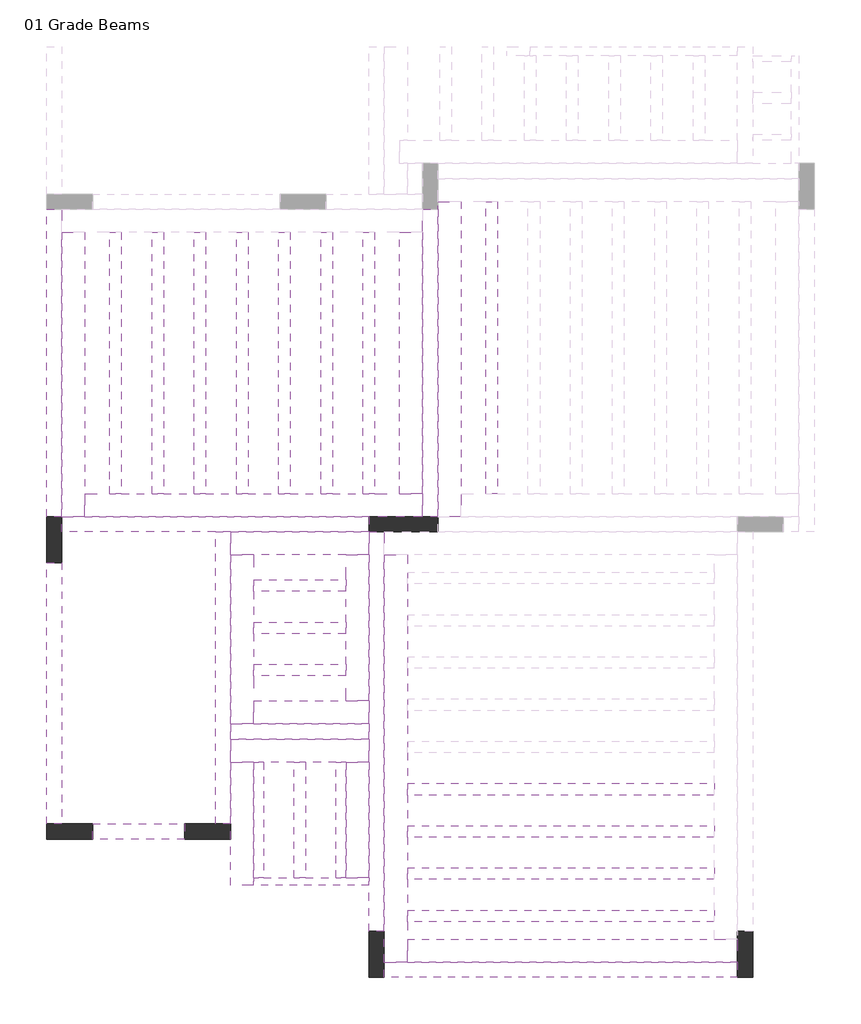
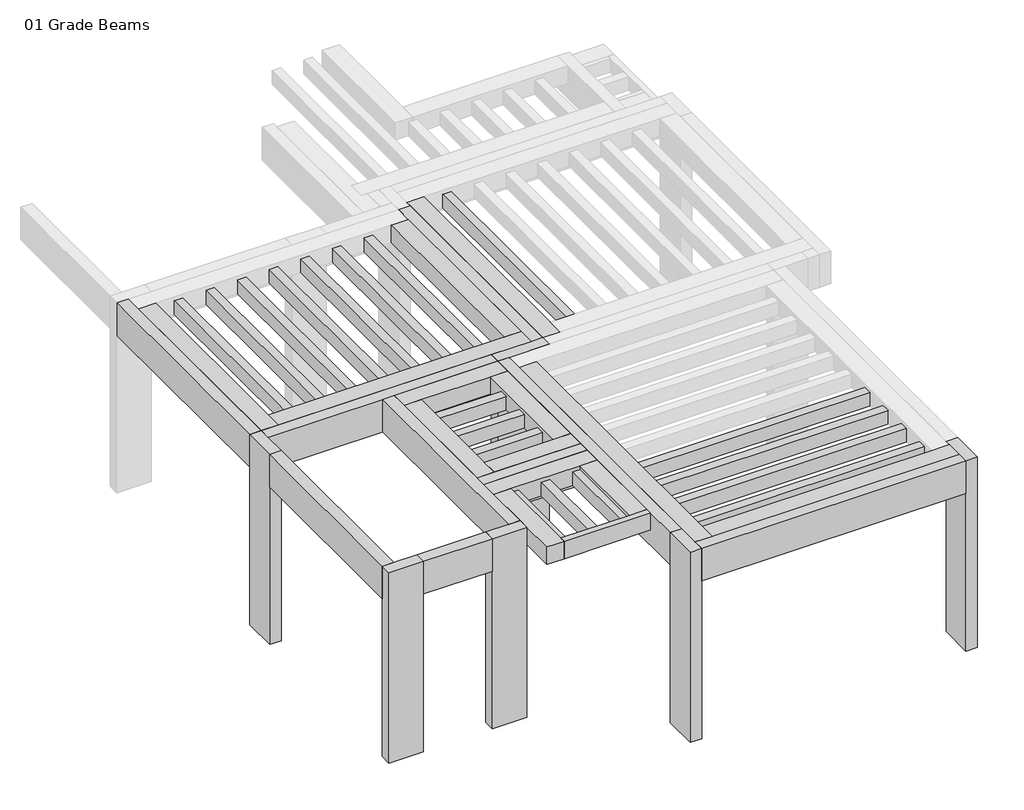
# One storey, part 1 of 3: 41 beams, 6 columns.
"""IFC4 building model written with IfcOpenShell, lengths in millimetres."""

from ifc_helpers import new_model, si_unit, frame, origin, place, context, project, spatial, polyline, outline, extrude, faceted_brep, element, save

model = new_model("IFC4")

# Units and contexts
model_context = context("Model", 3, world=origin())
ifc_project = project(units=[si_unit("LENGTHUNIT", "METRE", prefix="MILLI")], contexts=[model_context])

# Site, building, storey
site = spatial("IfcSite", under=ifc_project)
building = spatial("IfcBuilding", under=site)
storey = spatial("IfcBuildingStorey", under=building, Name="01 Grade Beams", Elevation=0.0)

# Beams
placement = place(None, origin())
element("IfcBeam", 1, ObjectType="M_Concrete-Rectangular Beam : DB1- 20 x 60 cm", at=placement, inside=storey, context=model_context, shape_type="Brep", body=[
    faceted_brep([(-5601.9262989, 1144.9958345, 3500.0), (-5801.9262989, 1144.9958345, 3500.0), (-5801.9262989, -2855.0041655, 3500.0), (-5601.9262989, -2855.0041655, 3500.0), (-5601.9262989, 844.9958345, 3500.0), (-5801.9262989, 1144.9958345, 2900.0), (-5801.9262989, -2855.0041655, 2900.0), (-5601.9262989, 1144.9958345, 2900.0), (-5601.9262989, -2855.0041655, 2900.0), (-5601.9262989, 1144.9958345, 3180.0), (-5601.9262989, -2855.0041655, 3180.0)], [[[0, 1, 2, 3, 4]], [[1, 5, 6, 2]], [[5, 7, 8, 6]], [[7, 9, 0, 4, 3, 10, 8]], [[1, 0, 9, 7, 5]], [[3, 2, 6, 8, 10]]]),
])
element("IfcBeam", 2, ObjectType="M_Concrete-Rectangular Beam : DB1- 20 x 60 cm", at=placement, inside=storey, context=model_context, shape_type="Brep", body=[
    faceted_brep([(-5601.9262989, -3455.0041655, 3500.0), (-5801.9262989, -3455.0041655, 3500.0), (-5801.9262989, -6855.0041655, 3500.0), (-5601.9262989, -6855.0041655, 3500.0), (-5801.9262989, -3455.0041655, 2900.0), (-5801.9262989, -6855.0041655, 2900.0), (-5601.9262989, -3455.0041655, 2900.0), (-5601.9262989, -6855.0041655, 2900.0), (-5601.9262989, -6855.0041655, 3350.0)], [[[0, 1, 2, 3]], [[1, 4, 5, 2]], [[4, 6, 7, 5]], [[6, 0, 3, 8, 7]], [[1, 0, 6, 4]], [[3, 2, 5, 7, 8]]]),
])
element("IfcBeam", 3, ObjectType="M_Concrete-Rectangular Beam : DB1- 20 x 60 cm", at=placement, inside=storey, context=model_context, shape_type="SweptSolid", body=[
    extrude(outline(polyline([(-5201.9262989, -7055.0041655), (-5201.9262989, -6855.0041655), (-4001.9262989, -6855.0041655), (-4001.9262989, -7055.0041655), (-5201.9262989, -7055.0041655)])), frame((0.0, 0.0, 2900.0), z_axis=(0.0, 0.0, 1.0), x_axis=(1.0, 0.0, 0.0)), (0.0, 0.0, 1.0), 600.0),
])
element("IfcBeam", 4, ObjectType="M_Concrete-Rectangular Beam : DB1- 20 x 60 cm", at=placement, inside=storey, context=model_context, shape_type="Brep", body=[
    faceted_brep([(-1401.9262989, -8655.0041655, 3500.0), (-1401.9262989, -8855.0041655, 3500.0), (3198.0737011, -8855.0041655, 3500.0), (3198.0737011, -8655.0041655, 3500.0), (-1101.9262989, -8655.0041655, 3500.0), (-1401.9262989, -8655.0041655, 2900.0), (-1401.9262989, -8655.0041655, 3180.0), (3198.0737011, -8655.0041655, 3180.0), (3198.0737011, -8655.0041655, 2900.0), (-1401.9262989, -8855.0041655, 2900.0), (3198.0737011, -8855.0041655, 2900.0)], [[[0, 1, 2, 3, 4]], [[5, 6, 0, 4, 3, 7, 8]], [[9, 5, 8, 10]], [[1, 9, 10, 2]], [[1, 0, 6, 5, 9]], [[3, 2, 10, 8, 7]]]),
])
element("IfcBeam", 5, ObjectType="M_Concrete-Rectangular Beam : DB1- 20 x 60 cm", at=placement, inside=storey, context=model_context, shape_type="Brep", body=[
    faceted_brep([(-901.9262989, -2855.0041655, 3500.0), (-701.9262989, -2855.0041655, 3500.0), (-701.9262989, 1144.9958345, 3500.0), (-901.9262989, 1144.9958345, 3500.0), (-901.9262989, 844.9958345, 3500.0), (-901.9262989, -2555.0041655, 3500.0), (-701.9262989, -2855.0041655, 2900.0), (-901.9262989, -2855.0041655, 2900.0), (-901.9262989, 1144.9958345, 2900.0), (-701.9262989, 1144.9958345, 2900.0), (-701.9262989, -2855.0041655, 3180.0), (-901.9262989, -2855.0041655, 3180.0), (-901.9262989, 1144.9958345, 3180.0)], [[[0, 1, 2, 3, 4, 5]], [[6, 7, 8, 9]], [[1, 10, 6, 9, 2]], [[1, 0, 11, 7, 6, 10]], [[2, 9, 8, 12, 3]], [[7, 11, 0, 5, 4, 3, 12, 8]]]),
])
element("IfcBeam", 6, ObjectType="M_Concrete-Rectangular Beam : DB1- 20 x 60 cm", at=placement, inside=storey, context=model_context, shape_type="Brep", body=[
    faceted_brep([(-3401.9262989, -5555.0041655, 3500.0), (-3401.9262989, -5755.0041655, 3500.0), (-1601.9262989, -5755.0041655, 3500.0), (-1601.9262989, -5555.0041655, 3500.0), (-3101.9262989, -5555.0041655, 3500.0), (-3401.9262989, -5555.0041655, 2900.0), (-3401.9262989, -5555.0041655, 3180.0), (-1601.9262989, -5555.0041655, 3180.0), (-1601.9262989, -5555.0041655, 2900.0), (-3401.9262989, -5755.0041655, 2900.0), (-1601.9262989, -5755.0041655, 2900.0), (-3401.9262989, -5755.0041655, 3180.0), (-1601.9262989, -5755.0041655, 3180.0)], [[[0, 1, 2, 3, 4]], [[5, 6, 0, 4, 3, 7, 8]], [[9, 5, 8, 10]], [[1, 11, 9, 10, 12, 2]], [[1, 0, 6, 5, 9, 11]], [[3, 2, 12, 10, 8, 7]]]),
])
element("IfcBeam", 7, ObjectType="M_Concrete-Rectangular Beam : DB2- 20 x 60 cm", at=placement, inside=storey, context=model_context, shape_type="Brep", body=[
    faceted_brep([(-5601.9262989, -2855.0041655, 3500.0), (-5601.9262989, -3055.0041655, 3500.0), (-3601.9262989, -3055.0041655, 3500.0), (-3401.9262989, -3055.0041655, 3500.0), (-1601.9262989, -3055.0041655, 3500.0), (-1601.9262989, -2855.0041655, 3500.0), (-5301.9262989, -2855.0041655, 3500.0), (-5601.9262989, -2855.0041655, 2900.0), (-5601.9262989, -2855.0041655, 3180.0), (-1601.9262989, -2855.0041655, 2900.0), (-5601.9262989, -3055.0041655, 2900.0), (-1601.9262989, -3055.0041655, 2900.0), (-3401.9262989, -3055.0041655, 2900.0), (-3601.9262989, -3055.0041655, 2900.0), (-5601.9262989, -3055.0041655, 3350.0), (-1601.9262989, -3055.0041655, 3180.0)], [[[0, 1, 2, 3, 4, 5, 6]], [[7, 8, 0, 6, 5, 9]], [[10, 7, 9, 11, 12, 13]], [[1, 14, 10, 13, 12, 11, 15, 4, 3, 2]], [[1, 0, 8, 7, 10, 14]], [[5, 4, 15, 11, 9]]]),
])
element("IfcBeam", 8, ObjectType="M_Concrete-Rectangular Beam : DB2- 20 x 60 cm", at=placement, inside=storey, context=model_context, shape_type="Brep", body=[
    faceted_brep([(-3401.9262989, -3055.0041655, 3500.0), (-3601.9262989, -3055.0041655, 3500.0), (-3601.9262989, -6855.0041655, 3500.0), (-3401.9262989, -6855.0041655, 3500.0), (-3401.9262989, -6055.0041655, 3500.0), (-3401.9262989, -5755.0041655, 3500.0), (-3401.9262989, -5555.0041655, 3500.0), (-3401.9262989, -3355.0041655, 3500.0), (-3401.9262989, -3055.0041655, 2900.0), (-3401.9262989, -3055.0041655, 3180.0), (-3401.9262989, -6855.0041655, 2900.0), (-3401.9262989, -5755.0041655, 2900.0), (-3401.9262989, -5555.0041655, 2900.0), (-3601.9262989, -3055.0041655, 2900.0), (-3601.9262989, -6855.0041655, 2900.0), (-3601.9262989, -3055.0041655, 3350.0), (-3601.9262989, -6855.0041655, 3350.0)], [[[0, 1, 2, 3, 4, 5, 6, 7]], [[8, 9, 0, 7, 6, 5, 4, 3, 10, 11, 12]], [[13, 8, 12, 11, 10, 14]], [[1, 15, 13, 14, 16, 2]], [[1, 0, 9, 8, 13, 15]], [[3, 2, 16, 14, 10]]]),
])
element("IfcBeam", 9, ObjectType="M_Concrete-Rectangular Beam : DB2- 20 x 60 cm", at=placement, inside=storey, context=model_context, shape_type="Brep", body=[
    faceted_brep([(-1401.9262989, -3055.0041655, 3500.0), (-1601.9262989, -3055.0041655, 3500.0), (-1601.9262989, -3355.0041655, 3500.0), (-1601.9262989, -5255.0041655, 3500.0), (-1601.9262989, -5555.0041655, 3500.0), (-1601.9262989, -5755.0041655, 3500.0), (-1601.9262989, -6055.0041655, 3500.0), (-1601.9262989, -7555.0041655, 3500.0), (-1601.9262989, -7655.0041655, 3500.0), (-1601.9262989, -8255.0041655, 3500.0), (-1401.9262989, -8255.0041655, 3500.0), (-1401.9262989, -3355.0041655, 3500.0), (-1401.9262989, -3055.0041655, 2900.0), (-1401.9262989, -3055.0041655, 3180.0), (-1401.9262989, -8255.0041655, 2900.0), (-1601.9262989, -3055.0041655, 2900.0), (-1601.9262989, -8255.0041655, 2900.0), (-1601.9262989, -5755.0041655, 2900.0), (-1601.9262989, -5555.0041655, 2900.0), (-1601.9262989, -3055.0041655, 3180.0)], [[[0, 1, 2, 3, 4, 5, 6, 7, 8, 9, 10, 11]], [[12, 13, 0, 11, 10, 14]], [[15, 12, 14, 16, 17, 18]], [[1, 19, 15, 18, 17, 16, 9, 8, 7, 6, 5, 4, 3, 2]], [[1, 0, 13, 12, 15, 19]], [[10, 9, 16, 14]]]),
])
element("IfcBeam", 10, ObjectType="M_Concrete-Rectangular Beam : P- 30 x 32 cm", at=placement, inside=storey, context=model_context, shape_type="Brep", body=[
    faceted_brep([(-701.9262989, -2855.0041655, 3500.0), (-401.9262989, -2855.0041655, 3500.0), (-401.9262989, -2555.0041655, 3500.0), (-401.9262989, 1244.9958345, 3500.0), (-701.9262989, 1244.9958345, 3500.0), (-701.9262989, 1144.9958345, 3500.0), (-701.9262989, -2855.0041655, 3180.0), (-701.9262989, 1244.9958345, 3180.0), (-401.9262989, -2855.0041655, 3180.0), (-401.9262989, 1244.9958345, 3180.0), (-401.9262989, -2555.0041655, 3180.0), (-401.9262989, 1244.9958345, 3430.0)], [[[0, 1, 2, 3, 4, 5]], [[6, 0, 5, 4, 7]], [[8, 6, 7, 9, 10]], [[1, 8, 10, 9, 11, 3, 2]], [[4, 3, 11, 9, 7]], [[1, 0, 6, 8]]]),
])
element("IfcBeam", 11, ObjectType="M_Concrete-Rectangular Beam : P- 30 x 32 cm", at=placement, inside=storey, context=model_context, shape_type="Brep", body=[
    faceted_brep([(-5601.9262989, -2855.0041655, 3500.0), (-5301.9262989, -2855.0041655, 3500.0), (-5301.9262989, -2555.0041655, 3500.0), (-5301.9262989, 844.9958345, 3500.0), (-5601.9262989, 844.9958345, 3500.0), (-5601.9262989, -2855.0041655, 3180.0), (-5601.9262989, 844.9958345, 3180.0), (-5301.9262989, -2855.0041655, 3180.0), (-5301.9262989, 844.9958345, 3180.0), (-5301.9262989, -2555.0041655, 3180.0), (-5301.9262989, 844.9958345, 3430.0)], [[[0, 1, 2, 3, 4]], [[5, 0, 4, 6]], [[7, 5, 6, 8, 9]], [[1, 7, 9, 8, 10, 3, 2]], [[4, 3, 10, 8, 6]], [[1, 0, 5, 7]]]),
])
element("IfcBeam", 12, ObjectType="M_Concrete-Rectangular Beam : P- 30 x 32 cm", at=placement, inside=storey, context=model_context, shape_type="Brep", body=[
    faceted_brep([(-901.9262989, -2855.0041655, 3500.0), (-901.9262989, -2555.0041655, 3500.0), (-1201.9262989, -2555.0041655, 3500.0), (-5301.9262989, -2555.0041655, 3500.0), (-5301.9262989, -2855.0041655, 3500.0), (-1601.9262989, -2855.0041655, 3500.0), (-901.9262989, -2855.0041655, 3180.0), (-5301.9262989, -2855.0041655, 3180.0), (-901.9262989, -2555.0041655, 3180.0), (-5301.9262989, -2555.0041655, 3180.0), (-4976.9262989, -2555.0041655, 3180.0), (-4826.9262989, -2555.0041655, 3180.0), (-4426.9262989, -2555.0041655, 3180.0), (-4276.9262989, -2555.0041655, 3180.0), (-3876.9262989, -2555.0041655, 3180.0), (-3726.9262989, -2555.0041655, 3180.0), (-3326.9262989, -2555.0041655, 3180.0), (-3176.9262989, -2555.0041655, 3180.0), (-2776.9262989, -2555.0041655, 3180.0), (-2626.9262989, -2555.0041655, 3180.0), (-2226.9262989, -2555.0041655, 3180.0), (-2076.9262989, -2555.0041655, 3180.0), (-1676.9262989, -2555.0041655, 3180.0), (-1526.9262989, -2555.0041655, 3180.0), (-1201.9262989, -2555.0041655, 3180.0), (-5301.9262989, -2555.0041655, 3430.0)], [[[0, 1, 2, 3, 4, 5]], [[6, 0, 5, 4, 7]], [[8, 6, 7, 9, 10, 11, 12, 13, 14, 15, 16, 17, 18, 19, 20, 21, 22, 23, 24]], [[1, 8, 24, 23, 22, 21, 20, 19, 18, 17, 16, 15, 14, 13, 12, 11, 10, 9, 25, 3, 2]], [[4, 3, 25, 9, 7]], [[1, 0, 6, 8]]]),
])
element("IfcBeam", 13, ObjectType="M_Concrete-Rectangular Beam : P- 30 x 32 cm", at=placement, inside=storey, context=model_context, shape_type="Brep", body=[
    faceted_brep([(-901.9262989, 844.9958345, 3500.0), (-1201.9262989, 844.9958345, 3500.0), (-1201.9262989, -2555.0041655, 3500.0), (-901.9262989, -2555.0041655, 3500.0), (-901.9262989, 844.9958345, 3180.0), (-901.9262989, -2555.0041655, 3180.0), (-1201.9262989, 844.9958345, 3180.0), (-1201.9262989, -2555.0041655, 3180.0), (-1201.9262989, 844.9958345, 3430.0), (-1201.9262989, -2555.0041655, 3430.0)], [[[0, 1, 2, 3]], [[4, 0, 3, 5]], [[6, 4, 5, 7]], [[1, 8, 6, 7, 9, 2]], [[1, 0, 4, 6, 8]], [[3, 2, 9, 7, 5]]]),
])
element("IfcBeam", 14, ObjectType="M_Concrete-Rectangular Beam : P- 30 x 32 cm", at=placement, inside=storey, context=model_context, shape_type="Brep", body=[
    faceted_brep([(-1401.9262989, -8655.0041655, 3500.0), (-1101.9262989, -8655.0041655, 3500.0), (-1101.9262989, -8355.0041655, 3500.0), (-1101.9262989, -3355.0041655, 3500.0), (-1401.9262989, -3355.0041655, 3500.0), (-1401.9262989, -8255.0041655, 3500.0), (-1401.9262989, -8655.0041655, 3180.0), (-1401.9262989, -3355.0041655, 3180.0), (-1101.9262989, -8655.0041655, 3180.0), (-1101.9262989, -3355.0041655, 3180.0), (-1101.9262989, -3580.0041655, 3180.0), (-1101.9262989, -3730.0041655, 3180.0), (-1101.9262989, -4130.0041655, 3180.0), (-1101.9262989, -4280.0041655, 3180.0), (-1101.9262989, -4680.0041655, 3180.0), (-1101.9262989, -4830.0041655, 3180.0), (-1101.9262989, -5230.0041655, 3180.0), (-1101.9262989, -5380.0041655, 3180.0), (-1101.9262989, -5780.0041655, 3180.0), (-1101.9262989, -5930.0041655, 3180.0), (-1101.9262989, -6330.0041655, 3180.0), (-1101.9262989, -6480.0041655, 3180.0), (-1101.9262989, -6880.0041655, 3180.0), (-1101.9262989, -7030.0041655, 3180.0), (-1101.9262989, -7430.0041655, 3180.0), (-1101.9262989, -7580.0041655, 3180.0), (-1101.9262989, -7980.0041655, 3180.0), (-1101.9262989, -8130.0041655, 3180.0), (-1101.9262989, -8355.0041655, 3180.0), (-1101.9262989, -3355.0041655, 3430.0)], [[[0, 1, 2, 3, 4, 5]], [[6, 0, 5, 4, 7]], [[8, 6, 7, 9, 10, 11, 12, 13, 14, 15, 16, 17, 18, 19, 20, 21, 22, 23, 24, 25, 26, 27, 28]], [[1, 8, 28, 27, 26, 25, 24, 23, 22, 21, 20, 19, 18, 17, 16, 15, 14, 13, 12, 11, 10, 9, 29, 3, 2]], [[4, 3, 29, 9, 7]], [[1, 0, 6, 8]]]),
])
element("IfcBeam", 15, ObjectType="M_Concrete-Rectangular Beam : P- 30 x 32 cm", at=placement, inside=storey, context=model_context, shape_type="Brep", body=[
    faceted_brep([(3198.0737011, -8655.0041655, 3500.0), (3198.0737011, -8355.0041655, 3500.0), (2898.0737011, -8355.0041655, 3500.0), (-1101.9262989, -8355.0041655, 3500.0), (-1101.9262989, -8655.0041655, 3500.0), (3198.0737011, -8655.0041655, 3180.0), (-1101.9262989, -8655.0041655, 3180.0), (3198.0737011, -8355.0041655, 3180.0), (-1101.9262989, -8355.0041655, 3180.0), (2898.0737011, -8355.0041655, 3180.0), (-1101.9262989, -8355.0041655, 3430.0)], [[[0, 1, 2, 3, 4]], [[5, 0, 4, 6]], [[7, 5, 6, 8, 9]], [[1, 7, 9, 8, 10, 3, 2]], [[4, 3, 10, 8, 6]], [[1, 0, 5, 7]]]),
])
element("IfcBeam", 16, ObjectType="M_Concrete-Rectangular Beam : P- 30 x 32 cm", at=placement, inside=storey, context=model_context, shape_type="Brep", body=[
    faceted_brep([(-3401.9262989, -3055.0041655, 3500.0), (-3401.9262989, -3355.0041655, 3500.0), (-3101.9262989, -3355.0041655, 3500.0), (-1901.9262989, -3355.0041655, 3500.0), (-1601.9262989, -3355.0041655, 3500.0), (-1601.9262989, -3055.0041655, 3500.0), (-3401.9262989, -3055.0041655, 3180.0), (-1601.9262989, -3055.0041655, 3180.0), (-3401.9262989, -3355.0041655, 3180.0), (-1601.9262989, -3355.0041655, 3180.0), (-1901.9262989, -3355.0041655, 3180.0), (-3101.9262989, -3355.0041655, 3180.0)], [[[0, 1, 2, 3, 4, 5]], [[6, 0, 5, 7]], [[8, 6, 7, 9, 10, 11]], [[1, 8, 11, 10, 9, 4, 3, 2]], [[1, 0, 6, 8]], [[5, 4, 9, 7]]]),
])
element("IfcBeam", 17, ObjectType="M_Concrete-Rectangular Beam : P- 30 x 32 cm", at=placement, inside=storey, context=model_context, shape_type="Brep", body=[
    faceted_brep([(-3401.9262989, -5555.0041655, 3500.0), (-3101.9262989, -5555.0041655, 3500.0), (-3101.9262989, -5255.0041655, 3500.0), (-3101.9262989, -3355.0041655, 3500.0), (-3401.9262989, -3355.0041655, 3500.0), (-3401.9262989, -5555.0041655, 3180.0), (-3401.9262989, -3355.0041655, 3180.0), (-3101.9262989, -5555.0041655, 3180.0), (-3101.9262989, -3355.0041655, 3180.0), (-3101.9262989, -3680.0041655, 3180.0), (-3101.9262989, -3830.0041655, 3180.0), (-3101.9262989, -4230.0041655, 3180.0), (-3101.9262989, -4380.0041655, 3180.0), (-3101.9262989, -4780.0041655, 3180.0), (-3101.9262989, -4930.0041655, 3180.0), (-3101.9262989, -5255.0041655, 3180.0), (-3101.9262989, -3355.0041655, 3430.0)], [[[0, 1, 2, 3, 4]], [[5, 0, 4, 6]], [[7, 5, 6, 8, 9, 10, 11, 12, 13, 14, 15]], [[1, 7, 15, 14, 13, 12, 11, 10, 9, 8, 16, 3, 2]], [[4, 3, 16, 8, 6]], [[1, 0, 5, 7]]]),
])
element("IfcBeam", 18, ObjectType="M_Concrete-Rectangular Beam : P- 30 x 32 cm", at=placement, inside=storey, context=model_context, shape_type="Brep", body=[
    faceted_brep([(-1601.9262989, -5555.0041655, 3500.0), (-1601.9262989, -5255.0041655, 3500.0), (-1901.9262989, -5255.0041655, 3500.0), (-3101.9262989, -5255.0041655, 3500.0), (-3101.9262989, -5555.0041655, 3500.0), (-1601.9262989, -5555.0041655, 3180.0), (-3101.9262989, -5555.0041655, 3180.0), (-1601.9262989, -5255.0041655, 3180.0), (-3101.9262989, -5255.0041655, 3180.0), (-1901.9262989, -5255.0041655, 3180.0), (-3101.9262989, -5255.0041655, 3430.0)], [[[0, 1, 2, 3, 4]], [[5, 0, 4, 6]], [[7, 5, 6, 8, 9]], [[1, 7, 9, 8, 10, 3, 2]], [[4, 3, 10, 8, 6]], [[1, 0, 5, 7]]]),
])
element("IfcBeam", 19, ObjectType="M_Concrete-Rectangular Beam : P- 30 x 32 cm", at=placement, inside=storey, context=model_context, shape_type="Brep", body=[
    faceted_brep([(-1901.9262989, -5255.0041655, 3500.0), (-1601.9262989, -5255.0041655, 3500.0), (-1601.9262989, -3355.0041655, 3500.0), (-1901.9262989, -3355.0041655, 3500.0), (-1601.9262989, -5255.0041655, 3180.0), (-1601.9262989, -3355.0041655, 3180.0), (-1901.9262989, -5255.0041655, 3180.0), (-1901.9262989, -4930.0041655, 3180.0), (-1901.9262989, -4780.0041655, 3180.0), (-1901.9262989, -4380.0041655, 3180.0), (-1901.9262989, -4230.0041655, 3180.0), (-1901.9262989, -3830.0041655, 3180.0), (-1901.9262989, -3680.0041655, 3180.0), (-1901.9262989, -3355.0041655, 3180.0), (-1901.9262989, -5255.0041655, 3430.0), (-1901.9262989, -3355.0041655, 3430.0)], [[[0, 1, 2, 3]], [[1, 4, 5, 2]], [[4, 6, 7, 8, 9, 10, 11, 12, 13, 5]], [[6, 14, 0, 3, 15, 13, 12, 11, 10, 9, 8, 7]], [[1, 0, 14, 6, 4]], [[3, 2, 5, 13, 15]]]),
])
element("IfcBeam", 20, ObjectType="M_Concrete-Rectangular Beam : P- 30 x 32 cm", at=placement, inside=storey, context=model_context, shape_type="Brep", body=[
    faceted_brep([(-3401.9262989, -5755.0041655, 3500.0), (-3401.9262989, -6055.0041655, 3500.0), (-3101.9262989, -6055.0041655, 3500.0), (-1901.9262989, -6055.0041655, 3500.0), (-1601.9262989, -6055.0041655, 3500.0), (-1601.9262989, -5755.0041655, 3500.0), (-3401.9262989, -5755.0041655, 3180.0), (-1601.9262989, -5755.0041655, 3180.0), (-3401.9262989, -6055.0041655, 3180.0), (-1601.9262989, -6055.0041655, 3180.0), (-1901.9262989, -6055.0041655, 3180.0), (-2026.9262989, -6055.0041655, 3180.0), (-2426.9262989, -6055.0041655, 3180.0), (-2576.9262989, -6055.0041655, 3180.0), (-2976.9262989, -6055.0041655, 3180.0), (-3101.9262989, -6055.0041655, 3180.0)], [[[0, 1, 2, 3, 4, 5]], [[6, 0, 5, 7]], [[8, 6, 7, 9, 10, 11, 12, 13, 14, 15]], [[1, 8, 15, 14, 13, 12, 11, 10, 9, 4, 3, 2]], [[1, 0, 6, 8]], [[5, 4, 9, 7]]]),
])
element("IfcBeam", 21, ObjectType="M_Concrete-Rectangular Beam : P- 30 x 32 cm", at=placement, inside=storey, context=model_context, shape_type="Brep", body=[
    faceted_brep([(-3101.9262989, -6055.0041655, 3500.0), (-3401.9262989, -6055.0041655, 3500.0), (-3401.9262989, -6855.0041655, 3500.0), (-3401.9262989, -7055.0041655, 3500.0), (-3401.9262989, -7655.0041655, 3500.0), (-3101.9262989, -7655.0041655, 3500.0), (-3101.9262989, -7555.0041655, 3500.0), (-3401.9262989, -6055.0041655, 3180.0), (-3401.9262989, -7055.0041655, 3180.0), (-3401.9262989, -7655.0041655, 3180.0), (-3101.9262989, -6055.0041655, 3180.0), (-3101.9262989, -7555.0041655, 3180.0), (-3101.9262989, -7655.0041655, 3180.0), (-3101.9262989, -6055.0041655, 3430.0)], [[[0, 1, 2, 3, 4, 5, 6]], [[1, 7, 8, 9, 4, 3, 2]], [[7, 10, 11, 12, 9, 8]], [[10, 13, 0, 6, 5, 12, 11]], [[1, 0, 13, 10, 7]], [[5, 4, 9, 12]]]),
])
element("IfcBeam", 22, ObjectType="M_Concrete-Rectangular Beam : P- 30 x 32 cm", at=placement, inside=storey, context=model_context, shape_type="Brep", body=[
    faceted_brep([(-1601.9262989, -7555.0041655, 3500.0), (-1901.9262989, -7555.0041655, 3500.0), (-3101.9262989, -7555.0041655, 3500.0), (-3101.9262989, -7655.0041655, 3500.0), (-1601.9262989, -7655.0041655, 3500.0), (-3101.9262989, -7555.0041655, 3180.0), (-2976.9262989, -7555.0041655, 3180.0), (-2576.9262989, -7555.0041655, 3180.0), (-2426.9262989, -7555.0041655, 3180.0), (-2026.9262989, -7555.0041655, 3180.0), (-1901.9262989, -7555.0041655, 3180.0), (-1601.9262989, -7555.0041655, 3180.0), (-1601.9262989, -7655.0041655, 3180.0), (-3101.9262989, -7655.0041655, 3180.0), (-3101.9262989, -7555.0041655, 3430.0)], [[[0, 1, 2, 3, 4]], [[5, 6, 7, 8, 9, 10, 11, 12, 13]], [[5, 14, 2, 1, 0, 11, 10, 9, 8, 7, 6]], [[2, 14, 5, 13, 3]], [[11, 0, 4, 12]], [[4, 3, 13, 12]]]),
])
element("IfcBeam", 23, ObjectType="M_Concrete-Rectangular Beam : P- 30 x 32 cm", at=placement, inside=storey, context=model_context, shape_type="Brep", body=[
    faceted_brep([(-1601.9262989, -6055.0041655, 3500.0), (-1901.9262989, -6055.0041655, 3500.0), (-1901.9262989, -7555.0041655, 3500.0), (-1601.9262989, -7555.0041655, 3500.0), (-1601.9262989, -6055.0041655, 3180.0), (-1601.9262989, -7555.0041655, 3180.0), (-1901.9262989, -6055.0041655, 3180.0), (-1901.9262989, -7555.0041655, 3180.0), (-1901.9262989, -6055.0041655, 3430.0), (-1901.9262989, -7555.0041655, 3430.0)], [[[0, 1, 2, 3]], [[4, 0, 3, 5]], [[6, 4, 5, 7]], [[1, 8, 6, 7, 9, 2]], [[1, 0, 4, 6, 8]], [[3, 2, 9, 7, 5]]]),
])
element("IfcBeam", 24, ObjectType="M_Pan Joist : RB1- 32 x 15", at=placement, inside=storey, context=model_context, shape_type="SweptSolid", body=[
    extrude(outline(polyline([(-3101.9262989, -4930.0041655), (-3101.9262989, -4780.0041655), (-1901.9262989, -4780.0041655), (-1901.9262989, -4930.0041655), (-3101.9262989, -4930.0041655)])), frame((0.0, 0.0, 3180.0), z_axis=(0.0, 0.0, 1.0), x_axis=(1.0, 0.0, 0.0)), (0.0, 0.0, 1.0), 250.0),
])
element("IfcBeam", 25, ObjectType="M_Pan Joist : RB1- 32 x 15", at=placement, inside=storey, context=model_context, shape_type="SweptSolid", body=[
    extrude(outline(polyline([(-3101.9262989, -4380.0041655), (-3101.9262989, -4230.0041655), (-1901.9262989, -4230.0041655), (-1901.9262989, -4380.0041655), (-3101.9262989, -4380.0041655)])), frame((0.0, 0.0, 3180.0), z_axis=(0.0, 0.0, 1.0), x_axis=(1.0, 0.0, 0.0)), (0.0, 0.0, 1.0), 250.0),
])
element("IfcBeam", 26, ObjectType="M_Pan Joist : RB1- 32 x 15", at=placement, inside=storey, context=model_context, shape_type="SweptSolid", body=[
    extrude(outline(polyline([(-3101.9262989, -3830.0041655), (-3101.9262989, -3680.0041655), (-1901.9262989, -3680.0041655), (-1901.9262989, -3830.0041655), (-3101.9262989, -3830.0041655)])), frame((0.0, 0.0, 3180.0), z_axis=(0.0, 0.0, 1.0), x_axis=(1.0, 0.0, 0.0)), (0.0, 0.0, 1.0), 250.0),
])
element("IfcBeam", 27, ObjectType="M_Pan Joist : RB1- 32 x 15", at=placement, inside=storey, context=model_context, shape_type="SweptSolid", body=[
    extrude(outline(polyline([(-2976.9262989, -6055.0041655), (-2976.9262989, -7555.0041655), (-3101.9262989, -7555.0041655), (-3101.9262989, -6055.0041655), (-2976.9262989, -6055.0041655)])), frame((0.0, 0.0, 3180.0), z_axis=(0.0, 0.0, 1.0), x_axis=(1.0, 0.0, 0.0)), (0.0, 0.0, 1.0), 250.0),
])
element("IfcBeam", 28, ObjectType="M_Pan Joist : RB1- 32 x 15", at=placement, inside=storey, context=model_context, shape_type="SweptSolid", body=[
    extrude(outline(polyline([(-2576.9262989, -6055.0041655), (-2426.9262989, -6055.0041655), (-2426.9262989, -7555.0041655), (-2576.9262989, -7555.0041655), (-2576.9262989, -6055.0041655)])), frame((0.0, 0.0, 3180.0), z_axis=(0.0, 0.0, 1.0), x_axis=(1.0, 0.0, 0.0)), (0.0, 0.0, 1.0), 250.0),
])
element("IfcBeam", 29, ObjectType="M_Pan Joist : RB1- 32 x 15", at=placement, inside=storey, context=model_context, shape_type="SweptSolid", body=[
    extrude(outline(polyline([(-2026.9262989, -7555.0041655), (-2026.9262989, -6055.0041655), (-1901.9262989, -6055.0041655), (-1901.9262989, -7555.0041655), (-2026.9262989, -7555.0041655)])), frame((0.0, 0.0, 3180.0), z_axis=(0.0, 0.0, 1.0), x_axis=(1.0, 0.0, 0.0)), (0.0, 0.0, 1.0), 250.0),
])
element("IfcBeam", 30, ObjectType="M_Pan Joist : RB1- 32 x 15", at=placement, inside=storey, context=model_context, shape_type="SweptSolid", body=[
    extrude(outline(polyline([(-1101.9262989, -8130.0041655), (-1101.9262989, -7980.0041655), (2898.0737011, -7980.0041655), (2898.0737011, -8130.0041655), (-1101.9262989, -8130.0041655)])), frame((0.0, 0.0, 3180.0), z_axis=(0.0, 0.0, 1.0), x_axis=(1.0, 0.0, 0.0)), (0.0, 0.0, 1.0), 250.0),
])
element("IfcBeam", 31, ObjectType="M_Pan Joist : RB1- 32 x 15", at=placement, inside=storey, context=model_context, shape_type="SweptSolid", body=[
    extrude(outline(polyline([(-1101.9262989, -7580.0041655), (-1101.9262989, -7430.0041655), (2898.0737011, -7430.0041655), (2898.0737011, -7580.0041655), (-1101.9262989, -7580.0041655)])), frame((0.0, 0.0, 3180.0), z_axis=(0.0, 0.0, 1.0), x_axis=(1.0, 0.0, 0.0)), (0.0, 0.0, 1.0), 250.0),
])
element("IfcBeam", 32, ObjectType="M_Pan Joist : RB1- 32 x 15", at=placement, inside=storey, context=model_context, shape_type="SweptSolid", body=[
    extrude(outline(polyline([(-1101.9262989, -7030.0041655), (-1101.9262989, -6880.0041655), (2898.0737011, -6880.0041655), (2898.0737011, -7030.0041655), (-1101.9262989, -7030.0041655)])), frame((0.0, 0.0, 3180.0), z_axis=(0.0, 0.0, 1.0), x_axis=(1.0, 0.0, 0.0)), (0.0, 0.0, 1.0), 250.0),
])
element("IfcBeam", 33, ObjectType="M_Pan Joist : RB1- 32 x 15", at=placement, inside=storey, context=model_context, shape_type="SweptSolid", body=[
    extrude(outline(polyline([(-1101.9262989, -6480.0041655), (-1101.9262989, -6330.0041655), (2898.0737011, -6330.0041655), (2898.0737011, -6480.0041655), (-1101.9262989, -6480.0041655)])), frame((0.0, 0.0, 3180.0), z_axis=(0.0, 0.0, 1.0), x_axis=(1.0, 0.0, 0.0)), (0.0, 0.0, 1.0), 250.0),
])
element("IfcBeam", 34, ObjectType="M_Pan Joist : RB1- 32 x 15", at=placement, inside=storey, context=model_context, shape_type="SweptSolid", body=[
    extrude(outline(polyline([(-76.9262989, 1244.9958345), (73.0737011, 1244.9958345), (73.0737011, -2555.0041655), (-76.9262989, -2555.0041655), (-76.9262989, 1244.9958345)])), frame((0.0, 0.0, 3180.0), z_axis=(0.0, 0.0, 1.0), x_axis=(1.0, 0.0, 0.0)), (0.0, 0.0, 1.0), 250.0),
])
element("IfcBeam", 35, ObjectType="M_Pan Joist : RB1- 32 x 15", at=placement, inside=storey, context=model_context, shape_type="SweptSolid", body=[
    extrude(outline(polyline([(-4976.9262989, 844.9958345), (-4826.9262989, 844.9958345), (-4826.9262989, -2555.0041655), (-4976.9262989, -2555.0041655), (-4976.9262989, 844.9958345)])), frame((0.0, 0.0, 3180.0), z_axis=(0.0, 0.0, 1.0), x_axis=(1.0, 0.0, 0.0)), (0.0, 0.0, 1.0), 250.0),
])
element("IfcBeam", 36, ObjectType="M_Pan Joist : RB1- 32 x 15", at=placement, inside=storey, context=model_context, shape_type="SweptSolid", body=[
    extrude(outline(polyline([(-4426.9262989, 844.9958345), (-4276.9262989, 844.9958345), (-4276.9262989, -2555.0041655), (-4426.9262989, -2555.0041655), (-4426.9262989, 844.9958345)])), frame((0.0, 0.0, 3180.0), z_axis=(0.0, 0.0, 1.0), x_axis=(1.0, 0.0, 0.0)), (0.0, 0.0, 1.0), 250.0),
])
element("IfcBeam", 37, ObjectType="M_Pan Joist : RB1- 32 x 15", at=placement, inside=storey, context=model_context, shape_type="SweptSolid", body=[
    extrude(outline(polyline([(-3876.9262989, 844.9958345), (-3726.9262989, 844.9958345), (-3726.9262989, -2555.0041655), (-3876.9262989, -2555.0041655), (-3876.9262989, 844.9958345)])), frame((0.0, 0.0, 3180.0), z_axis=(0.0, 0.0, 1.0), x_axis=(1.0, 0.0, 0.0)), (0.0, 0.0, 1.0), 250.0),
])
element("IfcBeam", 38, ObjectType="M_Pan Joist : RB1- 32 x 15", at=placement, inside=storey, context=model_context, shape_type="SweptSolid", body=[
    extrude(outline(polyline([(-3326.9262989, 844.9958345), (-3176.9262989, 844.9958345), (-3176.9262989, -2555.0041655), (-3326.9262989, -2555.0041655), (-3326.9262989, 844.9958345)])), frame((0.0, 0.0, 3180.0), z_axis=(0.0, 0.0, 1.0), x_axis=(1.0, 0.0, 0.0)), (0.0, 0.0, 1.0), 250.0),
])
element("IfcBeam", 39, ObjectType="M_Pan Joist : RB1- 32 x 15", at=placement, inside=storey, context=model_context, shape_type="SweptSolid", body=[
    extrude(outline(polyline([(-2776.9262989, 844.9958345), (-2626.9262989, 844.9958345), (-2626.9262989, -2555.0041655), (-2776.9262989, -2555.0041655), (-2776.9262989, 844.9958345)])), frame((0.0, 0.0, 3180.0), z_axis=(0.0, 0.0, 1.0), x_axis=(1.0, 0.0, 0.0)), (0.0, 0.0, 1.0), 250.0),
])
element("IfcBeam", 40, ObjectType="M_Pan Joist : RB1- 32 x 15", at=placement, inside=storey, context=model_context, shape_type="SweptSolid", body=[
    extrude(outline(polyline([(-2226.9262989, 844.9958345), (-2076.9262989, 844.9958345), (-2076.9262989, -2555.0041655), (-2226.9262989, -2555.0041655), (-2226.9262989, 844.9958345)])), frame((0.0, 0.0, 3180.0), z_axis=(0.0, 0.0, 1.0), x_axis=(1.0, 0.0, 0.0)), (0.0, 0.0, 1.0), 250.0),
])
element("IfcBeam", 41, ObjectType="M_Pan Joist : RB1- 32 x 15", at=placement, inside=storey, context=model_context, shape_type="SweptSolid", body=[
    extrude(outline(polyline([(-1676.9262989, 844.9958345), (-1526.9262989, 844.9958345), (-1526.9262989, -2555.0041655), (-1676.9262989, -2555.0041655), (-1676.9262989, 844.9958345)])), frame((0.0, 0.0, 3180.0), z_axis=(0.0, 0.0, 1.0), x_axis=(1.0, 0.0, 0.0)), (0.0, 0.0, 1.0), 250.0),
])

# Columns
element("IfcColumn", 42, ObjectType="M_Concrete-Rectangular-Column : 20 x 60 cm", at=placement, inside=storey, context=model_context, shape_type="Brep", body=[
    faceted_brep([(-5801.9262989, -3455.0041655, 0.0), (-5801.9262989, -2855.0041655, 0.0), (-5601.9262989, -2855.0041655, 0.0), (-5601.9262989, -3455.0041655, 0.0), (-5801.9262989, -3455.0041655, 3500.0), (-5801.9262989, -2855.0041655, 3500.0), (-5601.9262989, -2855.0041655, 3500.0), (-5601.9262989, -3055.0041655, 3500.0), (-5601.9262989, -3455.0041655, 3500.0)], [[[0, 1, 2, 3]], [[4, 5, 1, 0]], [[5, 6, 2, 1]], [[6, 7, 8, 3, 2]], [[8, 4, 0, 3]], [[4, 8, 7, 6, 5]]]),
])
element("IfcColumn", 43, ObjectType="M_Concrete-Rectangular-Column : 20 x 60 cm", at=placement, inside=storey, context=model_context, shape_type="Brep", body=[
    faceted_brep([(-5201.9262989, -7055.0041655, 0.0), (-5801.9262989, -7055.0041655, 0.0), (-5801.9262989, -6855.0041655, 0.0), (-5201.9262989, -6855.0041655, 0.0), (-5201.9262989, -7055.0041655, 3500.0), (-5801.9262989, -7055.0041655, 3500.0), (-5801.9262989, -6855.0041655, 3500.0), (-5601.9262989, -6855.0041655, 3500.0), (-5201.9262989, -6855.0041655, 3500.0)], [[[0, 1, 2, 3]], [[4, 5, 1, 0]], [[5, 6, 2, 1]], [[6, 7, 8, 3, 2]], [[8, 4, 0, 3]], [[4, 8, 7, 6, 5]]]),
])
element("IfcColumn", 44, ObjectType="M_Concrete-Rectangular-Column : 20 x 60 cm", at=placement, inside=storey, context=model_context, shape_type="Brep", body=[
    faceted_brep([(-3401.9262989, -7055.0041655, 0.0), (-4001.9262989, -7055.0041655, 0.0), (-4001.9262989, -6855.0041655, 0.0), (-3401.9262989, -6855.0041655, 0.0), (-3401.9262989, -7055.0041655, 3500.0), (-4001.9262989, -7055.0041655, 3500.0), (-3401.9262989, -7055.0041655, 3180.0), (-4001.9262989, -6855.0041655, 3500.0), (-3601.9262989, -6855.0041655, 3500.0), (-3401.9262989, -6855.0041655, 3500.0)], [[[0, 1, 2, 3]], [[4, 5, 1, 0, 6]], [[5, 7, 2, 1]], [[7, 8, 9, 3, 2]], [[9, 4, 6, 0, 3]], [[4, 9, 8, 7, 5]]]),
])
element("IfcColumn", 45, ObjectType="M_Concrete-Rectangular-Column : 20 x 60 cm", at=placement, inside=storey, context=model_context, shape_type="Brep", body=[
    faceted_brep([(-1401.9262989, -8255.0041655, 0.0), (-1401.9262989, -8855.0041655, 0.0), (-1601.9262989, -8855.0041655, 0.0), (-1601.9262989, -8255.0041655, 0.0), (-1401.9262989, -8255.0041655, 3500.0), (-1401.9262989, -8655.0041655, 3500.0), (-1401.9262989, -8855.0041655, 3500.0), (-1601.9262989, -8855.0041655, 3500.0), (-1601.9262989, -8255.0041655, 3500.0)], [[[0, 1, 2, 3]], [[4, 5, 6, 1, 0]], [[6, 7, 2, 1]], [[7, 8, 3, 2]], [[8, 4, 0, 3]], [[4, 8, 7, 6, 5]]]),
])
element("IfcColumn", 46, ObjectType="M_Concrete-Rectangular-Column : 20 x 60 cm", at=placement, inside=storey, context=model_context, shape_type="Brep", body=[
    faceted_brep([(3398.0737011, -8255.0041655, 0.0), (3398.0737011, -8855.0041655, 0.0), (3198.0737011, -8855.0041655, 0.0), (3198.0737011, -8255.0041655, 0.0), (3398.0737011, -8255.0041655, 3500.0), (3398.0737011, -8855.0041655, 3500.0), (3198.0737011, -8855.0041655, 3500.0), (3198.0737011, -8655.0041655, 3500.0), (3198.0737011, -8355.0041655, 3500.0), (3198.0737011, -8255.0041655, 3500.0)], [[[0, 1, 2, 3]], [[4, 5, 1, 0]], [[5, 6, 2, 1]], [[6, 7, 8, 9, 3, 2]], [[9, 4, 0, 3]], [[4, 9, 8, 7, 6, 5]]]),
])
element("IfcColumn", 47, ObjectType="M_Concrete-Rectangular-Column : 20 x 90 cm", at=placement, inside=storey, context=model_context, shape_type="Brep", body=[
    faceted_brep([(-1601.9262989, -2855.0041655, 0.0), (-701.9262989, -2855.0041655, 0.0), (-701.9262989, -3055.0041655, 0.0), (-1601.9262989, -3055.0041655, 0.0), (-1601.9262989, -2855.0041655, 3500.0), (-901.9262989, -2855.0041655, 3500.0), (-701.9262989, -2855.0041655, 3500.0), (-701.9262989, -3055.0041655, 3500.0), (-1401.9262989, -3055.0041655, 3500.0), (-1601.9262989, -3055.0041655, 3500.0)], [[[0, 1, 2, 3]], [[4, 5, 6, 1, 0]], [[6, 7, 2, 1]], [[7, 8, 9, 3, 2]], [[9, 4, 0, 3]], [[4, 9, 8, 7, 6, 5]]]),
])

save(model, "model.ifc")
